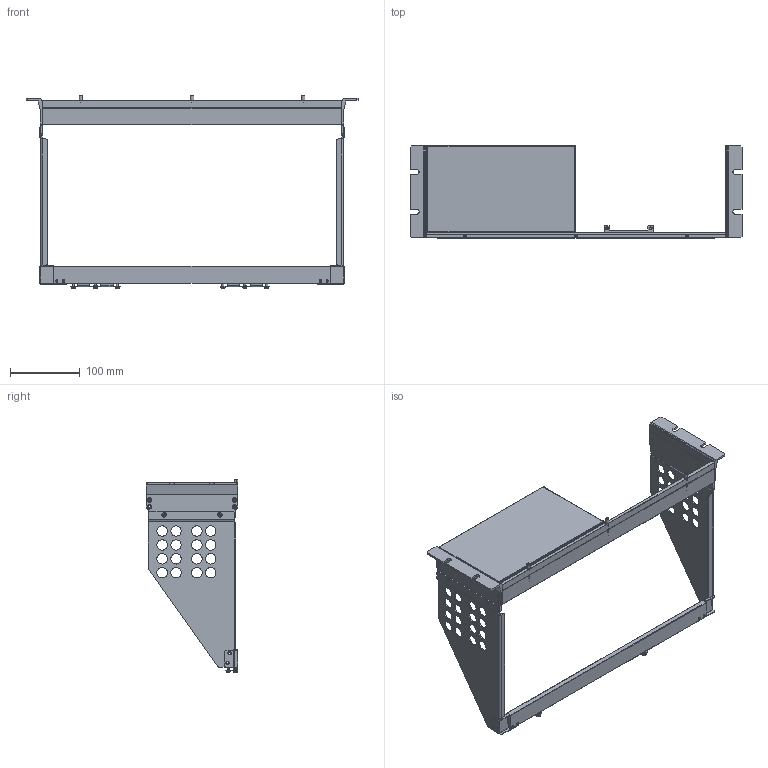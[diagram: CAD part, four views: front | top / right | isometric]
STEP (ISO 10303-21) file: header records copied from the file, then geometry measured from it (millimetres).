
FILE_DESCRIPTION((''),'2;1');
FILE_NAME('GRA-437E_ASM_ASM','2020-10-20T10:32:06',('user'),(''),'CREO PARAMETRIC BY PTC INC, 2019010','CREO PARAMETRIC BY PTC INC, 2019010','');
FILE_SCHEMA(('CONFIG_CONTROL_DESIGN'));
Length unit declared in the file: millimetre
Products named in the file (25): EIA-RACK_ASM_SKEL0002_10_1; 62RA-410HP101_3_1; 62RA-410HP201_4_1; 62RA-410HP3A1_8_1; 62RA-410HPAA1_9_1; GRA-437_RIGHT-BRACKET_21_1; 62RA-410HP5B1-HP_13_1; IMS-3X6_1_1; 62RA-437HP101_ASM_21_ASM_1_ASM; GRA-437_LEFT-BRACKET_14_1; 62RA-410HP4A1-HP_13_1; 62RA-437HP201_ASM_13_ASM_1_ASM; 59CA-04017NS1_1_1; 62RA-414HP201_11_1; 62RA-414HP201_ASM_3_ASM_1_ASM; PMS-W-3X6_1_1; FMS-3X8_2_1; FMS-3X5_2_1; 62RA-437HP301_23_1; BMS-W-S-3X8_1_1; BMS-W-S-3X6_1_1; GPP-XXXX_RACK-HP_ASM_10_ASM_1_ASM; GRA-437E_ASM_110_ASM_1_ASM; GRA-437E_ASM_ASM_1_ASM; GRA-437E_ASM_ASM
Assembly tree (39 placements, depth 5):
  GRA-437E_ASM_ASM
    GRA-437E_ASM_ASM_1_ASM
      GRA-437E_ASM_110_ASM_1_ASM
        EIA-RACK_ASM_SKEL0002_10_1
        62RA-410HP101_3_1
        62RA-410HP201_4_1
        62RA-410HP3A1_8_1
        62RA-410HPAA1_9_1  x2
        62RA-437HP101_ASM_21_ASM_1_ASM
          GRA-437_RIGHT-BRACKET_21_1
          62RA-410HP5B1-HP_13_1
          IMS-3X6_1_1  x2
        62RA-437HP201_ASM_13_ASM_1_ASM
          GRA-437_LEFT-BRACKET_14_1
          62RA-410HP4A1-HP_13_1
          IMS-3X6_1_1  x2
        59CA-04017NS1_1_1  x3
        62RA-414HP201_ASM_3_ASM_1_ASM
          62RA-414HP201_11_1
        PMS-W-3X6_1_1
        FMS-3X8_2_1  x5
        FMS-3X5_2_1  x4
        GPP-XXXX_RACK-HP_ASM_10_ASM_1_ASM  x2
          62RA-437HP301_23_1
          BMS-W-S-3X8_1_1
          BMS-W-S-3X6_1_1
Bounding box: 477.6 x 132 x 278.94 mm (x, y, z)
Volume: 359718.1 mm3; surface area: 292583 mm2
Topology: 35 solids, 35 shells, 1512 faces, 3981 edges, 2536 vertices
Faces by surface type: plane 740, cylinder 552, cone 162, sphere 28, bspline 24, torus 6
Entity records: 31531 total; most frequent: CARTESIAN_POINT 6868, DIRECTION 5387, ORIENTED_EDGE 4878, EDGE_CURVE 2439, AXIS2_PLACEMENT_3D 1986, VERTEX_POINT 1548, VECTOR 1415, LINE 1415
